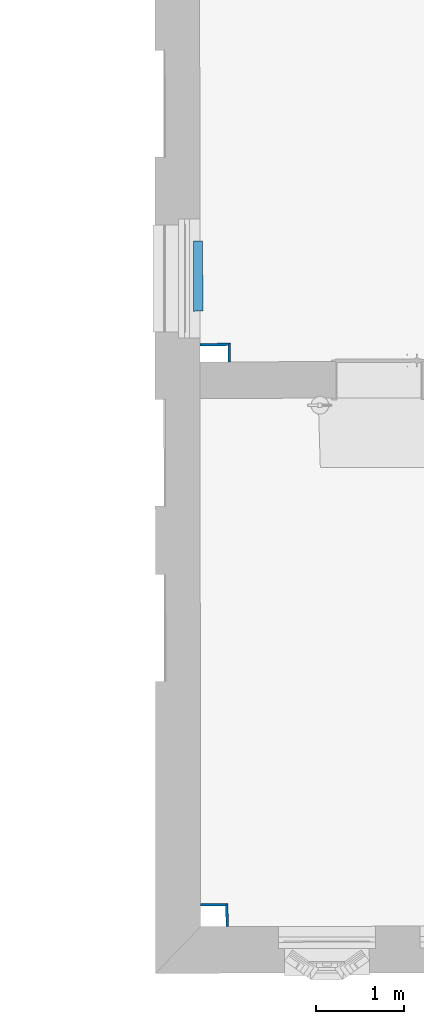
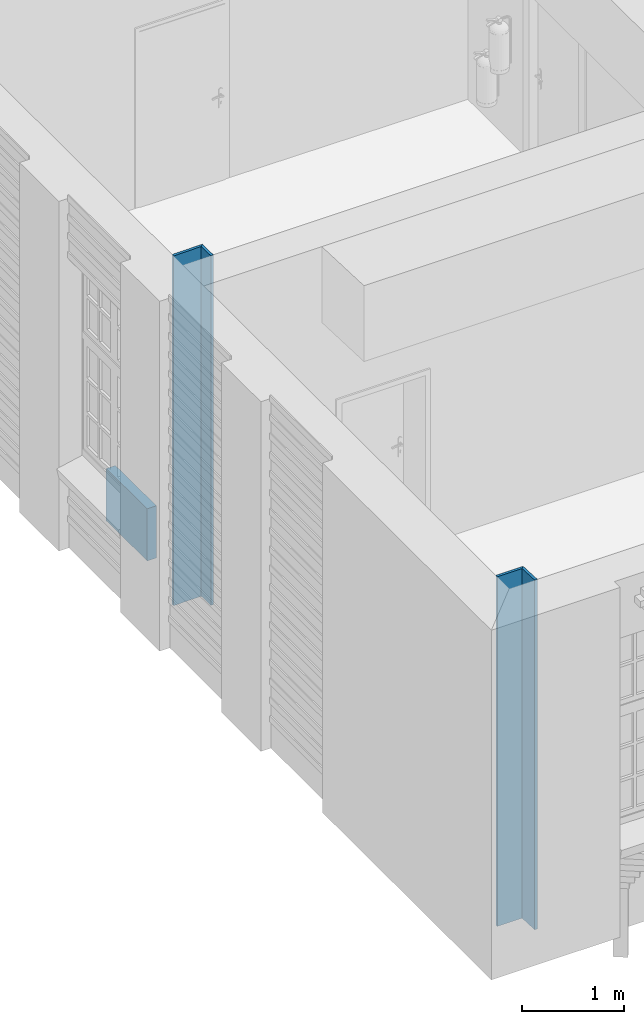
# One storey, part 7 of 90: 5 walls.
"""IFC2X3 building model written with IfcOpenShell, lengths in metres."""

from ifc_helpers import new_model, entity, si_unit, converted_unit, derived_unit, money_unit, direction, frame, origin_with_axes, place, context, subcontext, project, spatial, polyline, outline, extrude, material, layer, layer_set, layer_usage, type_object, element, save


model = new_model("IFC2X3")

# Units and contexts
model_context = context("Model", 3, precision=1e-05, world=origin_with_axes(), true_north=direction((0.0, 1.0)))
body_context = subcontext(model_context, "Body", "Model", "MODEL_VIEW")
ifc_project = project(units=[si_unit("LENGTHUNIT", "METRE"), si_unit("AREAUNIT", "SQUARE_METRE"), si_unit("VOLUMEUNIT", "CUBIC_METRE"), converted_unit("PLANEANGLEUNIT", "DEGREE", entity("IfcPlaneAngleMeasure", 0.0174532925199), si_unit("PLANEANGLEUNIT", "RADIAN"), dimensions=[0, 0, 0, 0, 0, 0, 0]), money_unit("EUR"), converted_unit("TIMEUNIT", "Year", entity("IfcTimeMeasure", 31556926.0), si_unit("TIMEUNIT", "SECOND"), dimensions=[0, 0, 1, 0, 0, 0, 0]), si_unit("MASSUNIT", "GRAM", prefix="KILO"), si_unit("THERMODYNAMICTEMPERATUREUNIT", "DEGREE_CELSIUS"), si_unit("LUMINOUSINTENSITYUNIT", "LUMEN"), si_unit("ENERGYUNIT", "JOULE", prefix="MEGA"), derived_unit("THERMALCONDUCTANCEUNIT", [(si_unit("POWERUNIT", "WATT"), 1), (si_unit("LENGTHUNIT", "METRE"), -1), (si_unit("THERMODYNAMICTEMPERATUREUNIT", "KELVIN"), -1)]), derived_unit("SPECIFICHEATCAPACITYUNIT", [(si_unit("ENERGYUNIT", "JOULE"), 1), (si_unit("MASSUNIT", "GRAM", prefix="KILO"), -1), (si_unit("THERMODYNAMICTEMPERATUREUNIT", "KELVIN"), -1)]), derived_unit("MASSDENSITYUNIT", [(si_unit("MASSUNIT", "GRAM", prefix="KILO"), 1), (si_unit("VOLUMEUNIT", "CUBIC_METRE"), -1)])], contexts=[model_context])

# Site, building, storey
site_placement = place(None, origin_with_axes())
site = spatial("IfcSite", under=ifc_project, at=site_placement, Name="Gelände", CompositionType="ELEMENT")
building_placement = place(site_placement, origin_with_axes())
building = spatial("IfcBuilding", under=site, at=building_placement, Name="Gebäude", CompositionType="ELEMENT")
storey_placement = place(building_placement, frame((0.0, 0.0, 3.7), z_axis=(0.0, 0.0, 1.0), x_axis=(1.0, 0.0, 0.0)))
storey = spatial("IfcBuildingStorey", under=building, at=storey_placement, Name="1.OBERGESCHOSS", CompositionType="ELEMENT", Elevation=3.7)

# Walls
ifc_material_1 = material(Name="43_Gipskarton")
ifc_layer_1 = layer(ifc_material_1, 0.03, ventilated="UNKNOWN")
ifc_layer_set_1 = layer_set([ifc_layer_1], Name="43_Gipskarton 0.03")
ifc_layer_usage_1 = layer_usage(ifc_layer_set_1, "AXIS2", "NEGATIVE", 0.0)
wall_type_1 = type_object("IfcWallType", Name="43_Gipskarton 30", PredefinedType="ELEMENTEDWALL")
wall_1_placement = place(storey_placement, frame((-28.056929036, 13.4043918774, -0.1), z_axis=(0.0, 0.0, 1.0), x_axis=(0.999872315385, 0.0159797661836, 0.0)))
element("IfcWallStandardCase", 1, at=wall_1_placement, inside=storey, type_object=wall_type_1, material=ifc_layer_usage_1, Name="Wand-042", ObjectType="ELEMENTEDWALL", context=body_context, shape_type="SweptSolid", body=[
    extrude(outline(polyline([(0.509606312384, -0.03), (0.825313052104, -0.03), (0.855354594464, 0.0), (0.510057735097, 0.0), (0.509606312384, -0.03)])), origin_with_axes(), (0.0, 0.0, 1.0), 4.2),
])
ifc_layer_usage_2 = layer_usage(ifc_layer_set_1, "AXIS2", "NEGATIVE", 0.0)
wall_2_placement = place(storey_placement, frame((-28.0509960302, 7.05321423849, -0.1), z_axis=(0.0, 0.0, 1.0), x_axis=(0.999994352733, 0.00336072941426, 0.0)))
element("IfcWallStandardCase", 2, at=wall_2_placement, inside=storey, type_object=wall_type_1, material=ifc_layer_usage_2, Name="Wand-042", ObjectType="ELEMENTEDWALL", context=body_context, shape_type="SweptSolid", body=[
    extrude(outline(polyline([(0.509928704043, -0.03), (0.791396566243, -0.03), (0.820372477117, 0.0), (0.510001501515, 0.0), (0.509928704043, -0.03)])), origin_with_axes(), (0.0, 0.0, 1.0), 4.2),
])
ifc_layer_usage_3 = layer_usage(ifc_layer_set_1, "AXIS2", "NEGATIVE", 0.0)
wall_3_placement = place(storey_placement, frame((-27.2306281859, 7.05597128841, -0.1), z_axis=(0.0, 0.0, 1.0), x_axis=(0.0380771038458, -0.999274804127, 0.0)))
element("IfcWallStandardCase", 3, at=wall_3_placement, inside=storey, type_object=wall_type_1, material=ifc_layer_usage_3, Name="Wand-042", ObjectType="ELEMENTEDWALL", context=body_context, shape_type="SweptSolid", body=[
    extrude(outline(polyline([(0.0289759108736, -0.03), (0.263137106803, -0.03), (0.264216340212, 0.0), (0.0, 0.0), (0.0289759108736, -0.03)])), origin_with_axes(), (0.0, 0.0, 1.0), 4.2),
])
ifc_layer_usage_4 = layer_usage(ifc_layer_set_1, "AXIS2", "NEGATIVE", 0.0)
wall_4_placement = place(storey_placement, frame((-27.2016836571, 13.4180602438, -0.1), z_axis=(0.0, 0.0, 1.0), x_axis=(0.0145961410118, -0.99989347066, 0.0)))
element("IfcWallStandardCase", 4, at=wall_4_placement, inside=storey, type_object=wall_type_1, material=ifc_layer_usage_4, Name="Wand-043", ObjectType="ELEMENTEDWALL", context=body_context, shape_type="SweptSolid", body=[
    extrude(outline(polyline([(0.0300415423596, -0.03), (0.21374917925, -0.03), (0.214101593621, 0.0), (0.0, 0.0), (0.0300415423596, -0.03)])), origin_with_axes(), (0.0, 0.0, 1.0), 4.2),
])
ifc_material_2 = material(Name="01_ALLGEMEIN - BAUTEIL")
ifc_layer_2 = layer(ifc_material_2, 0.105, ventilated="UNKNOWN")
ifc_layer_set_2 = layer_set([ifc_layer_2], Name="01_ALLGEMEIN - BAUTEIL 0.105")
ifc_layer_usage_5 = layer_usage(ifc_layer_set_2, "AXIS2", "NEGATIVE", 0.105)
wall_type_2 = type_object("IfcWallType", Name="01_ALLGEMEIN - BAUTEIL 105", PredefinedType="ELEMENTEDWALL")
wall_5_placement = place(storey_placement, frame((-27.5135033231, 13.7794719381, 0.222143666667), z_axis=(0.0, 0.0, 1.0), x_axis=(-0.00559368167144, 0.99998435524, 0.0)))
element("IfcWallStandardCase", 5, at=wall_5_placement, inside=storey, type_object=wall_type_2, material=ifc_layer_usage_5, Name="Wand-035", ObjectType="ELEMENTEDWALL", context=body_context, shape_type="SweptSolid", body=[
    extrude(outline(polyline([(0.0, 0.0), (0.798963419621, 0.0), (0.798963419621, 0.105), (0.0, 0.105), (0.0, 0.0)])), origin_with_axes(), (0.0, 0.0, 1.0), 0.626381),
])

save(model, "model.ifc")
